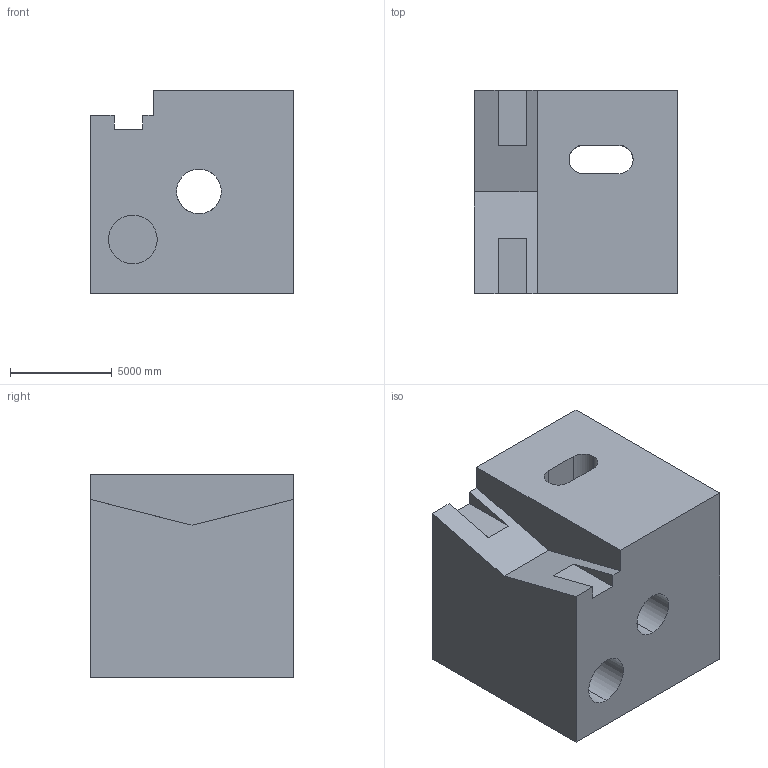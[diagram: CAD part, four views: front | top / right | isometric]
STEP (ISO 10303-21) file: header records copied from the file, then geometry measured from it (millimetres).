
FILE_DESCRIPTION (( 'STEP AP203' ), '1' );
FILE_NAME ('577.STEP', '2022-07-29T11:54:32', ( 'user' ), ( '' ), 'SwSTEP 2.0', 'SolidWorks 2021', '' );
FILE_SCHEMA (( 'CONFIG_CONTROL_DESIGN' ));
Length unit declared in the file: centimetre
Products named in the file (1): 577
Bounding box: 10000 x 10000 x 10000 mm (x, y, z)
Volume: 825087176959 mm3; surface area: 764371365.3 mm2
Topology: 1 solids, 1 shells, 39 faces, 117 edges, 78 vertices
Faces by surface type: plane 29, cylinder 10
Entity records: 1561 total; most frequent: CARTESIAN_POINT 426, ORIENTED_EDGE 234, DIRECTION 204, EDGE_CURVE 117, LINE 84, VECTOR 84, VERTEX_POINT 78, AXIS2_PLACEMENT_3D 60
